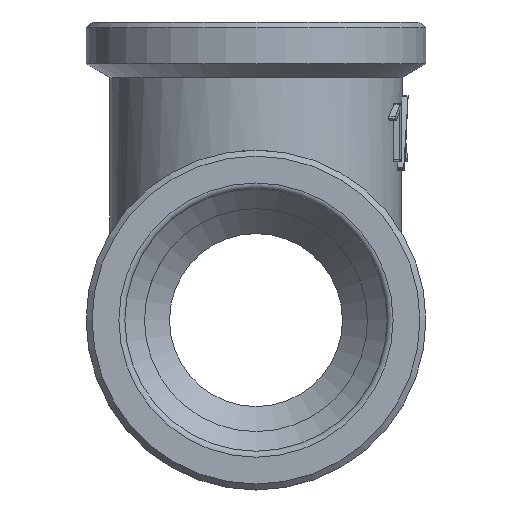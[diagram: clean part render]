
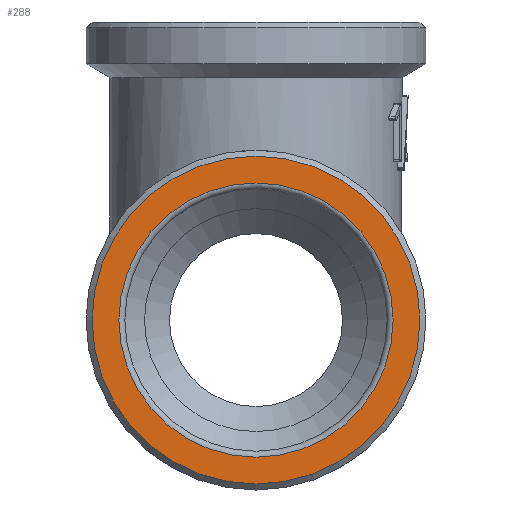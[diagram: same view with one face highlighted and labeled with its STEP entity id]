
A CAD part, front view. The second image highlights one B-rep face of the part: STEP entity #288.
In plain terms, the highlighted planar face has unit normal (0, -1, 0).
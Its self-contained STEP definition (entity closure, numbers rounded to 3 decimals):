
#288=ADVANCED_FACE('',(#2350,#2352),#2354,.F.);
#2350=FACE_BOUND('',#2351,.T.);
#2351=EDGE_LOOP('',(#4589));
#2352=FACE_BOUND('',#2353,.T.);
#2353=EDGE_LOOP('',(#4590));
#2354=PLANE('',#2355);
#2355=AXIS2_PLACEMENT_3D('',#2356,#2357,#2358);
#2356=CARTESIAN_POINT('',(0.,-25.,0.));
#2357=DIRECTION('',(0.,1.,0.));
#2358=DIRECTION('',(-1.,0.,0.));
#4589=ORIENTED_EDGE('',*,*,#5634,.T.);
#4590=ORIENTED_EDGE('',*,*,#5659,.T.);
#5634=EDGE_CURVE('',#6960,#6960,#6961,.T.);
#5659=EDGE_CURVE('',#6988,#6988,#6989,.F.);
#6960=VERTEX_POINT('',#13125);
#6961=CIRCLE('',#13126,13.75);
#6988=VERTEX_POINT('',#13206);
#6989=CIRCLE('',#13207,11.5);
#13125=CARTESIAN_POINT('',(0.,-25.,13.75));
#13126=AXIS2_PLACEMENT_3D('',#13127,#13128,#13129);
#13127=CARTESIAN_POINT('',(0.,-25.,0.));
#13128=DIRECTION('',(0.,-1.,0.));
#13129=DIRECTION('',(0.,0.,1.));
#13206=CARTESIAN_POINT('',(11.5,-25.,0.));
#13207=AXIS2_PLACEMENT_3D('',#13208,#13209,#13210);
#13208=CARTESIAN_POINT('',(0.,-25.,0.));
#13209=DIRECTION('',(0.,-1.,0.));
#13210=DIRECTION('',(1.,0.,0.));
